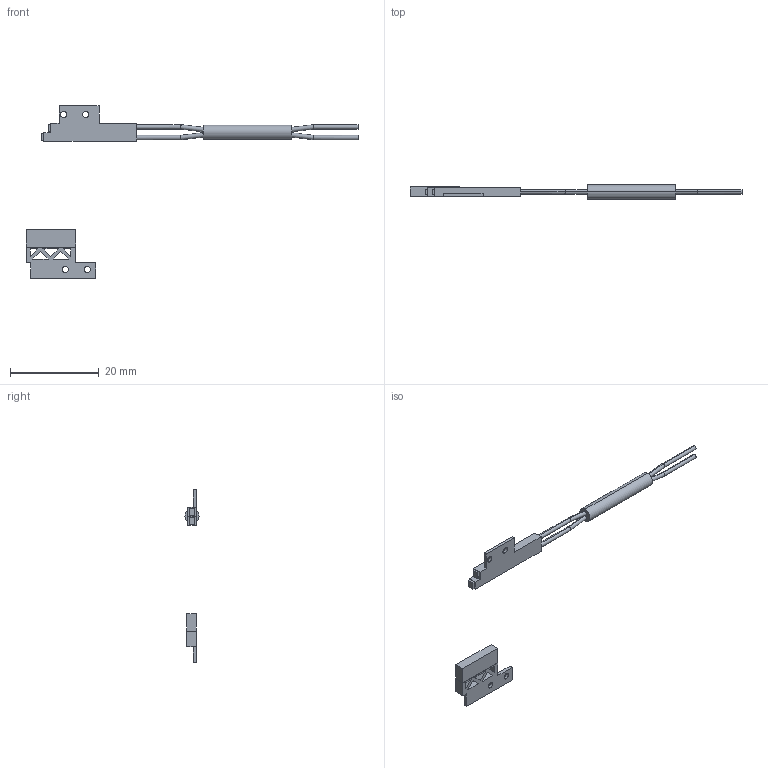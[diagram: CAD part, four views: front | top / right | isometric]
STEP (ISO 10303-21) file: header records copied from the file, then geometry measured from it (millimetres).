
FILE_DESCRIPTION (( 'STEP AP203' ), '1' );
FILE_NAME ('FR-KV1.STEP', '2005-09-04T13:38:39', ( '川島良英' ), ( ' ' ), 'SwSTEP 2.0', 'SolidWorks 2004251', '' );
FILE_SCHEMA (( 'CONFIG_CONTROL_DESIGN' ));
Length unit declared in the file: millimetre
Products named in the file (3): FR-KV1_蹬怮椔; FR-KV1; FR-KV1_connector_蹬怮椔
Assembly tree (2 placements, depth 2):
  FR-KV1
    FR-KV1_蹬怮椔
    FR-KV1_connector_蹬怮椔
Bounding box: 75 x 3.2 x 39 mm (x, y, z)
Volume: 587.1 mm3; surface area: 1173.1 mm2
Topology: 2 solids, 2 shells, 99 faces, 247 edges, 161 vertices
Faces by surface type: plane 67, cylinder 32
Entity records: 3253 total; most frequent: CARTESIAN_POINT 587, ORIENTED_EDGE 494, DIRECTION 464, EDGE_CURVE 247, LINE 188, VECTOR 188, VERTEX_POINT 161, AXIS2_PLACEMENT_3D 138
